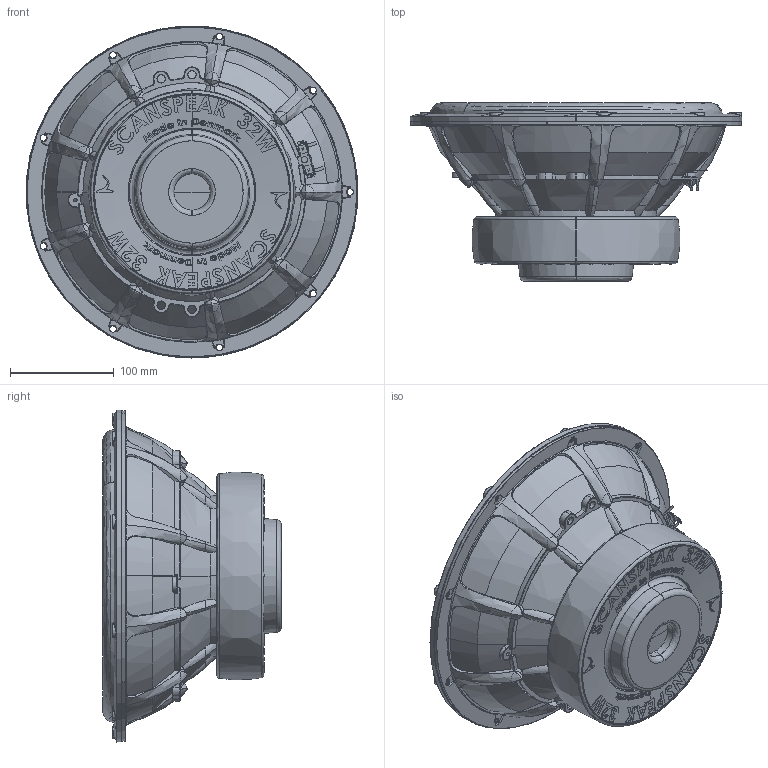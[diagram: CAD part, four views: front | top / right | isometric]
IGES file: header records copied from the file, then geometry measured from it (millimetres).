
Start section: SolidWorks IGES file using analytic representation for surfaces
Global section: file name: W:\TT\32W\32W-4878T00.IGS; native system: SolidWorks 2019; preprocessor: SolidWorks 2019; author: mhn; date: 201124.125815; units: millimetre
Bounding box: 319.88 x 172.17 x 319.88 mm (x, y, z)
Surface area: 378844 mm2 (no closed solid volume)
Topology: 0 solids, 0 shells, 2047 faces, 30067 edges, 29980 vertices
Faces by surface type: bspline 1378, revolution 669
